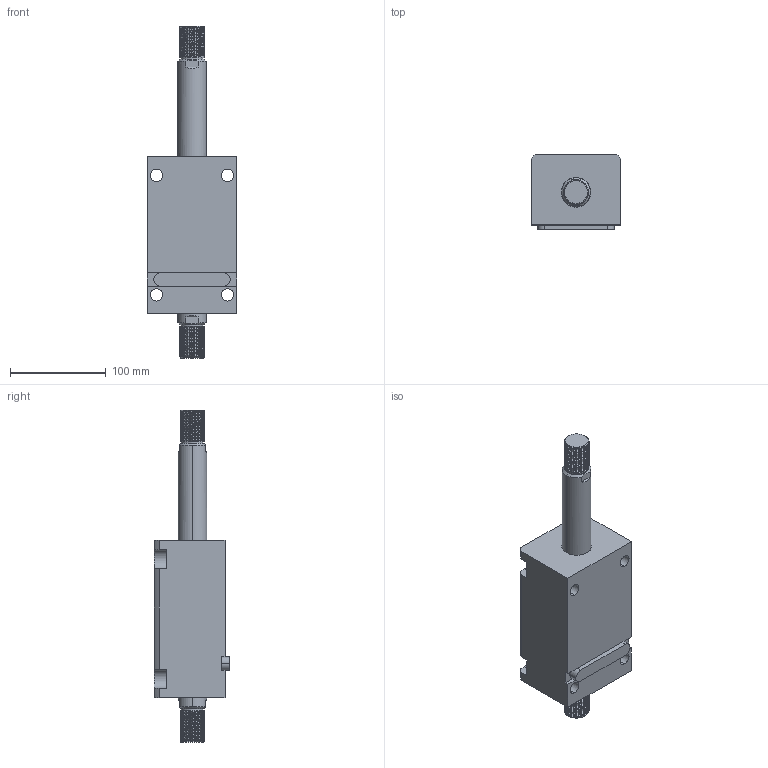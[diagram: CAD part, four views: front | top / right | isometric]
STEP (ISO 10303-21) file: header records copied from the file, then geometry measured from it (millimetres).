
FILE_DESCRIPTION (( 'STEP AP203' ), '1' );
FILE_NAME ('CHTB-LW50-90W.STEP', '2018-05-18T09:26:51', ( '' ), ( '' ), 'SwSTEP 2.0', 'SolidWorks 2015', '' );
FILE_SCHEMA (( 'CONFIG_CONTROL_DESIGN' ));
Length unit declared in the file: millimetre
Products named in the file (4): CHTM-SDMA50QG; 掛极LW50-90W; CHTB-LW50-90W; 活塞杆LW50-90W
Assembly tree (3 placements, depth 2):
  CHTB-LW50-90W
    掛极LW50-90W
    活塞杆LW50-90W
    CHTM-SDMA50QG
Bounding box: 94 x 79 x 347 mm (x, y, z)
Volume: 1092051.9 mm3; surface area: 160969.9 mm2
Topology: 3 solids, 3 shells, 310 faces, 854 edges, 568 vertices
Faces by surface type: cylinder 186, plane 63, cone 27, bspline 18, torus 16
Entity records: 19510 total; most frequent: CARTESIAN_POINT 11940, ORIENTED_EDGE 1700, DIRECTION 1310, EDGE_CURVE 850, VERTEX_POINT 568, AXIS2_PLACEMENT_3D 503, EDGE_LOOP 348, ADVANCED_FACE 310
